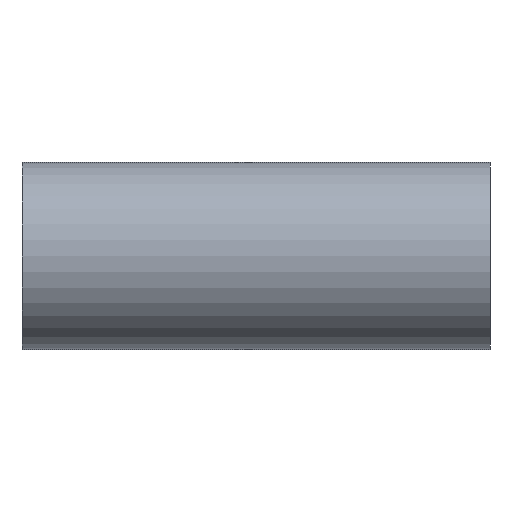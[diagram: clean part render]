
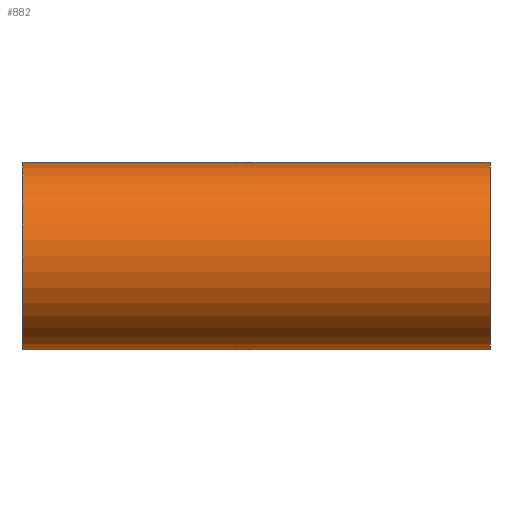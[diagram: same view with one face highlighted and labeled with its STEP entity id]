
A CAD part, front view. The second image highlights one B-rep face of the part: STEP entity #882.
In plain terms, the highlighted cylindrical face has radius 31.75 mm (diameter 63.5 mm), a partial arc.
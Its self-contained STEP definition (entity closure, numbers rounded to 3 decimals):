
#21 = CYLINDRICAL_SURFACE ( 'NONE', #588, 31.75 ) ;
#33 = DIRECTION ( 'NONE',  ( 0., 0., -1. ) ) ;
#45 = AXIS2_PLACEMENT_3D ( 'NONE', #289, #272, #260 ) ;
#57 = VERTEX_POINT ( 'NONE', #308 ) ;
#121 = AXIS2_PLACEMENT_3D ( 'NONE', #434, #898, #343 ) ;
#147 = ORIENTED_EDGE ( 'NONE', *, *, #342, .T. ) ;
#171 = ORIENTED_EDGE ( 'NONE', *, *, #1007, .T. ) ;
#175 = ORIENTED_EDGE ( 'NONE', *, *, #1041, .F. ) ;
#177 = VERTEX_POINT ( 'NONE', #1099 ) ;
#210 = ORIENTED_EDGE ( 'NONE', *, *, #223, .T. ) ;
#223 = EDGE_CURVE ( 'NONE', #177, #57, #540, .T. ) ;
#260 = DIRECTION ( 'NONE',  ( 0., 0., -1. ) ) ;
#272 = DIRECTION ( 'NONE',  ( 1., 0., 0. ) ) ;
#289 = CARTESIAN_POINT ( 'NONE',  ( -79.4, 0., 0. ) ) ;
#308 = CARTESIAN_POINT ( 'NONE',  ( 79.4, 0., 31.75 ) ) ;
#339 = EDGE_LOOP ( 'NONE', ( #175, #171, #147, #210 ) ) ;
#342 = EDGE_CURVE ( 'NONE', #893, #177, #1083, .T. ) ;
#343 = DIRECTION ( 'NONE',  ( 0., 0., -1. ) ) ;
#387 = CARTESIAN_POINT ( 'NONE',  ( -79.4, 0., -31.75 ) ) ;
#434 = CARTESIAN_POINT ( 'NONE',  ( 79.4, 0., 0. ) ) ;
#461 = CIRCLE ( 'NONE', #45, 31.75 ) ;
#474 = CARTESIAN_POINT ( 'NONE',  ( -79.4, 0., -31.75 ) ) ;
#508 = CARTESIAN_POINT ( 'NONE',  ( -79.4, 0., 31.75 ) ) ;
#514 = DIRECTION ( 'NONE',  ( 1., 0., 0. ) ) ;
#540 = CIRCLE ( 'NONE', #121, 31.75 ) ;
#543 = CARTESIAN_POINT ( 'NONE',  ( -79.4, 0., 0. ) ) ;
#588 = AXIS2_PLACEMENT_3D ( 'NONE', #543, #514, #33 ) ;
#653 = VECTOR ( 'NONE', #1017, 1000. ) ;
#689 = VECTOR ( 'NONE', #1062, 1000. ) ;
#726 = FACE_OUTER_BOUND ( 'NONE', #339, .T. ) ;
#746 = LINE ( 'NONE', #845, #653 ) ;
#845 = CARTESIAN_POINT ( 'NONE',  ( -79.4, 0., 31.75 ) ) ;
#882 = ADVANCED_FACE ( 'NONE', ( #726 ), #21, .T. ) ;
#893 = VERTEX_POINT ( 'NONE', #387 ) ;
#894 = VERTEX_POINT ( 'NONE', #508 ) ;
#898 = DIRECTION ( 'NONE',  ( -1., 0., 0. ) ) ;
#1007 = EDGE_CURVE ( 'NONE', #894, #893, #461, .T. ) ;
#1017 = DIRECTION ( 'NONE',  ( 1., 0., 0. ) ) ;
#1041 = EDGE_CURVE ( 'NONE', #894, #57, #746, .T. ) ;
#1062 = DIRECTION ( 'NONE',  ( 1., 0., 0. ) ) ;
#1083 = LINE ( 'NONE', #474, #689 ) ;
#1099 = CARTESIAN_POINT ( 'NONE',  ( 79.4, 0., -31.75 ) ) ;
